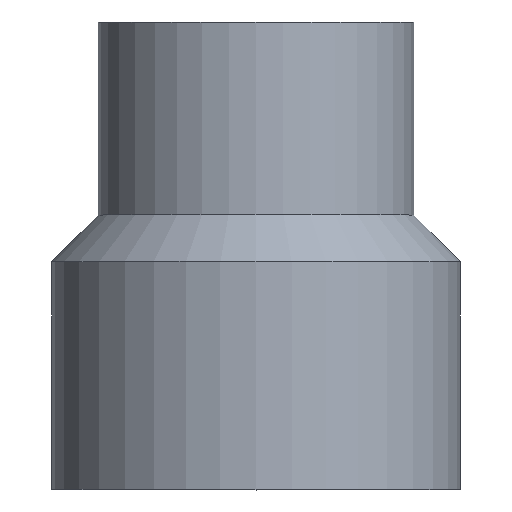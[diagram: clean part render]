
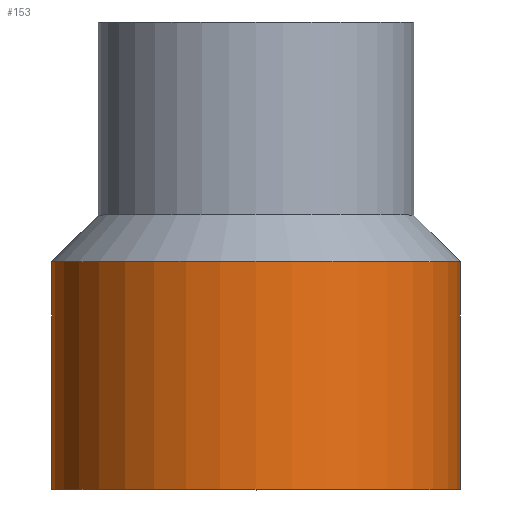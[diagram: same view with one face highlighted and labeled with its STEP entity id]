
A CAD part, top view. The second image highlights one B-rep face of the part: STEP entity #153.
In plain terms, the highlighted cylindrical face has radius 35 mm (diameter 70 mm), a full revolution.
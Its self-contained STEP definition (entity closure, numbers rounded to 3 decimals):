
#21=FACE_OUTER_BOUND('',#29,.T.);
#29=EDGE_LOOP('',(#105,#106,#107,#108,#109,#110));
#39=LINE('',#268,#45);
#45=VECTOR('',#213,35.);
#51=CIRCLE('',#182,35.);
#52=CIRCLE('',#183,35.);
#53=CIRCLE('',#184,35.);
#54=CIRCLE('',#185,35.);
#67=VERTEX_POINT('',#263);
#68=VERTEX_POINT('',#264);
#69=VERTEX_POINT('',#267);
#70=VERTEX_POINT('',#269);
#83=EDGE_CURVE('',#67,#68,#51,.T.);
#84=EDGE_CURVE('',#68,#67,#52,.T.);
#85=EDGE_CURVE('',#68,#69,#39,.T.);
#86=EDGE_CURVE('',#69,#70,#53,.T.);
#87=EDGE_CURVE('',#70,#69,#54,.T.);
#105=ORIENTED_EDGE('',*,*,#83,.F.);
#106=ORIENTED_EDGE('',*,*,#84,.F.);
#107=ORIENTED_EDGE('',*,*,#85,.T.);
#108=ORIENTED_EDGE('',*,*,#86,.T.);
#109=ORIENTED_EDGE('',*,*,#87,.T.);
#110=ORIENTED_EDGE('',*,*,#85,.F.);
#149=CYLINDRICAL_SURFACE('',#181,35.);
#153=ADVANCED_FACE('',(#21),#149,.T.);
#181=AXIS2_PLACEMENT_3D('',#262,#207,#208);
#182=AXIS2_PLACEMENT_3D('',#265,#209,#210);
#183=AXIS2_PLACEMENT_3D('',#266,#211,#212);
#184=AXIS2_PLACEMENT_3D('',#270,#214,#215);
#185=AXIS2_PLACEMENT_3D('',#271,#216,#217);
#207=DIRECTION('center_axis',(0.,1.,0.));
#208=DIRECTION('ref_axis',(-1.,0.,0.));
#209=DIRECTION('center_axis',(0.,1.,0.));
#210=DIRECTION('ref_axis',(-1.,0.,0.));
#211=DIRECTION('center_axis',(0.,1.,0.));
#212=DIRECTION('ref_axis',(-1.,0.,0.));
#213=DIRECTION('',(0.,-1.,0.));
#214=DIRECTION('center_axis',(0.,1.,0.));
#215=DIRECTION('ref_axis',(-1.,0.,0.));
#216=DIRECTION('center_axis',(0.,1.,0.));
#217=DIRECTION('ref_axis',(-1.,0.,0.));
#262=CARTESIAN_POINT('Origin',(0.,19.5,0.));
#263=CARTESIAN_POINT('',(-35.,39.,0.));
#264=CARTESIAN_POINT('',(35.,39.,0.));
#265=CARTESIAN_POINT('Origin',(0.,39.,0.));
#266=CARTESIAN_POINT('Origin',(0.,39.,0.));
#267=CARTESIAN_POINT('',(35.,0.,0.));
#268=CARTESIAN_POINT('',(35.,19.5,0.));
#269=CARTESIAN_POINT('',(-35.,0.,0.));
#270=CARTESIAN_POINT('Origin',(0.,0.,0.));
#271=CARTESIAN_POINT('Origin',(0.,0.,0.));
